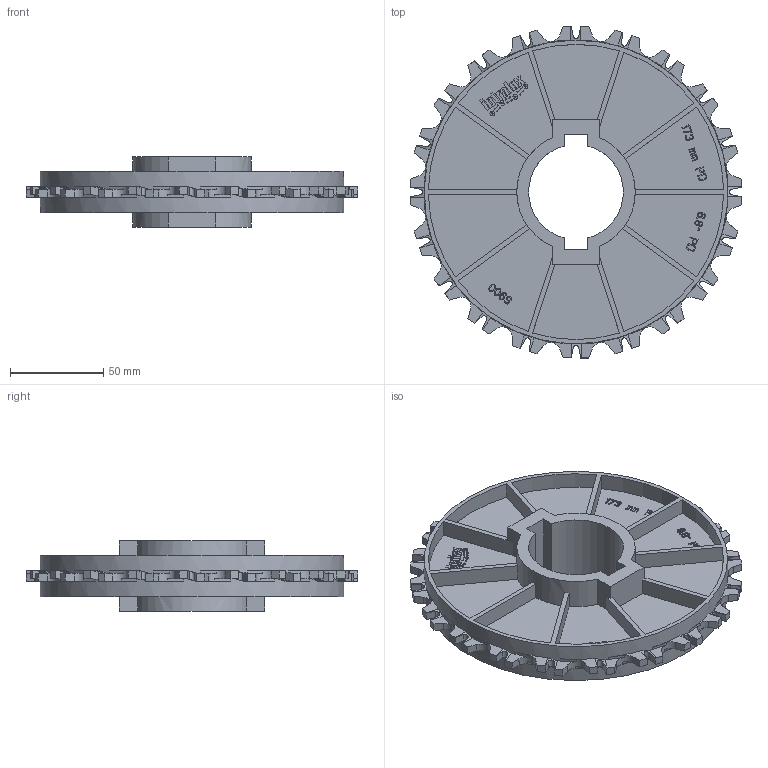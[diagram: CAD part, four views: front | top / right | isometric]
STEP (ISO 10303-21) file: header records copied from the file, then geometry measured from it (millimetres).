
FILE_DESCRIPTION((''),'2;1');
FILE_NAME('S900_SPROCKET_68X1-15_16_PILOT','2008-12-12T',('jmumphre'),(''),'PRO/ENGINEER BY PARAMETRIC TECHNOLOGY CORPORATION, 2008150','PRO/ENGINEER BY PARAMETRIC TECHNOLOGY CORPORATION, 2008150','');
FILE_SCHEMA(('CONFIG_CONTROL_DESIGN'));
Length unit declared in the file: inch
Products named in the file (1): S900_SPROCKET_68X1-15_16_PILOT
Bounding box: 177.86 x 177.86 x 37.59 mm (x, y, z)
Volume: 180827.8 mm3; surface area: 93138.1 mm2
Topology: 1 solids, 1 shells, 1263 faces, 3725 edges, 2510 vertices
Faces by surface type: plane 1103, cylinder 160
Entity records: 42612 total; most frequent: CARTESIAN_POINT 8715, ORIENTED_EDGE 7450, DIRECTION 6467, EDGE_CURVE 3725, VECTOR 3181, LINE 3181, VERTEX_POINT 2510, AXIS2_PLACEMENT_3D 1643
